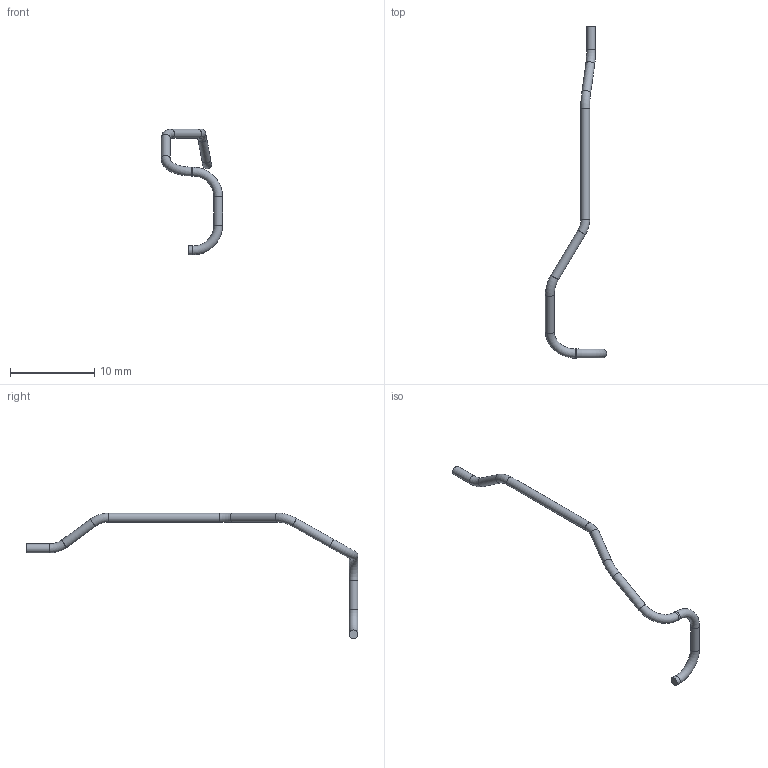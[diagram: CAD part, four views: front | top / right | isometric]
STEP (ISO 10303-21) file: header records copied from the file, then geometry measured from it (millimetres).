
FILE_DESCRIPTION(('Open CASCADE Model'),'2;1');
FILE_NAME('Open CASCADE Shape Model','2026-09-15T14:46:20',('Author'),( 'Open CASCADE'),'Open CASCADE STEP processor 7.7','Open CASCADE 7.7' ,'Unknown');
FILE_SCHEMA(('AUTOMOTIVE_DESIGN { 1 0 10303 214 1 1 1 1 }'));
Length unit declared in the file: millimetre
Products named in the file (1): J9_PIN_2_CONTROL_LEAD_OD1p05_R3
Bounding box: 7.26 x 39.31 x 14.89 mm (x, y, z)
Volume: 49.6 mm3; surface area: 190.6 mm2
Topology: 1 solids, 1 shells, 17 faces, 31 edges, 16 vertices
Faces by surface type: cylinder 8, torus 7, plane 2
Full cylindrical faces by diameter (mm): 1.05 x8
Entity records: 800 total; most frequent: CARTESIAN_POINT 156, DIRECTION 123, ORIENTED_EDGE 62, PCURVE 62, DEFINITIONAL_REPRESENTATION 62, AXIS2_PLACEMENT_3D 41, LINE 39, VECTOR 39
